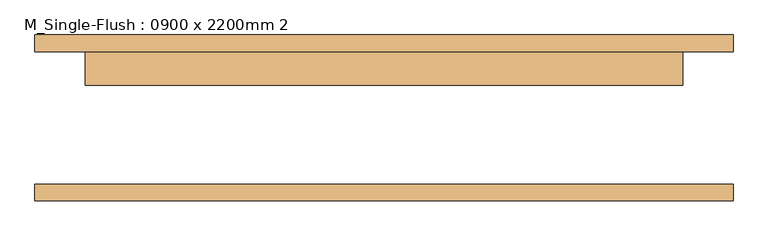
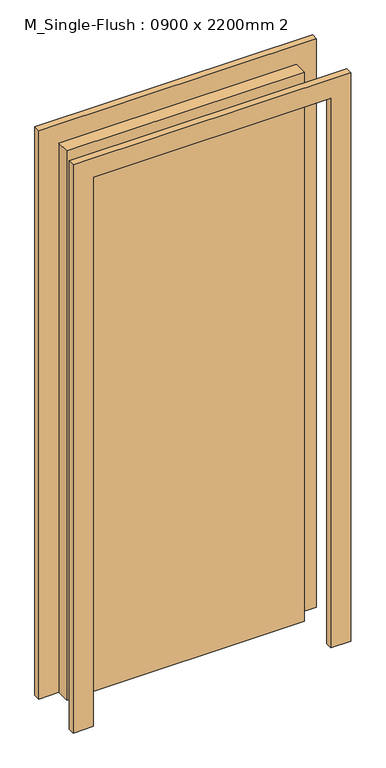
"""IFC4 building model written with IfcOpenShell, lengths in millimetres: door geometry, M_Single-Flush : 0900 x 2200mm 2."""

from ifc_helpers import new_model, si_unit, frame, origin, origin_with_axes, place, context, project, spatial, polyline, outline, extrude, source, transform, mapped, element, save


def m_single_flush_0900_x_2200mm_2_99173924(model_context):
    return source(origin(), model_context, "Body", "SweptSolid", [
        extrude(outline(polyline([(2276.0, -526.0), (0.0, -526.0), (0.0, -450.0), (2200.0, -450.0), (2200.0, 450.0), (0.0, 450.0), (0.0, 526.0), (2276.0, 526.0), (2276.0, -526.0)])), frame((0.0, 100.0, 0.0), z_axis=(0.0, 1.0, 0.0), x_axis=(0.0, 0.0, 1.0)), (0.0, 0.0, 1.0), 25.0),
        extrude(outline(polyline([(2276.0, 526.0), (2276.0, -526.0), (0.0, -526.0), (0.0, -450.0), (2200.0, -450.0), (2200.0, 450.0), (0.0, 450.0), (0.0, 526.0), (2276.0, 526.0)])), frame((0.0, -125.0, 0.0), z_axis=(0.0, 1.0, 0.0), x_axis=(0.0, 0.0, 1.0)), (0.0, 0.0, 1.0), 25.0),
        extrude(outline(polyline([(450.0, 49.0), (-450.0, 49.0), (-450.0, 100.0), (450.0, 100.0), (450.0, 49.0)])), origin_with_axes(), (0.0, 0.0, 1.0), 2200.0),
    ])


if __name__ == "__main__":
    model = new_model("IFC4")
    model_context = context("Model", 3, world=origin())
    ifc_project = project(units=[si_unit("LENGTHUNIT", "METRE", prefix="MILLI")], contexts=[model_context])
    site = spatial("IfcSite", under=ifc_project)
    building = spatial("IfcBuilding", under=site)
    placement = place(None, origin())
    m_single_flush_0900_x_2200mm_2_shape = m_single_flush_0900_x_2200mm_2_99173924(model_context)
    element("IfcDoor", 1, ObjectType="M_Single-Flush : 0900 x 2200mm 2", at=placement, inside=building, context=model_context, shape_type="MappedRepresentation", body=[
        mapped(m_single_flush_0900_x_2200mm_2_shape, transform((0.0, 0.0, 0.0), x_axis=(1.0, 0.0, 0.0), y_axis=(0.0, 1.0, 0.0), z_axis=(0.0, 0.0, 1.0))),
    ])
    save(model, "model.ifc")
